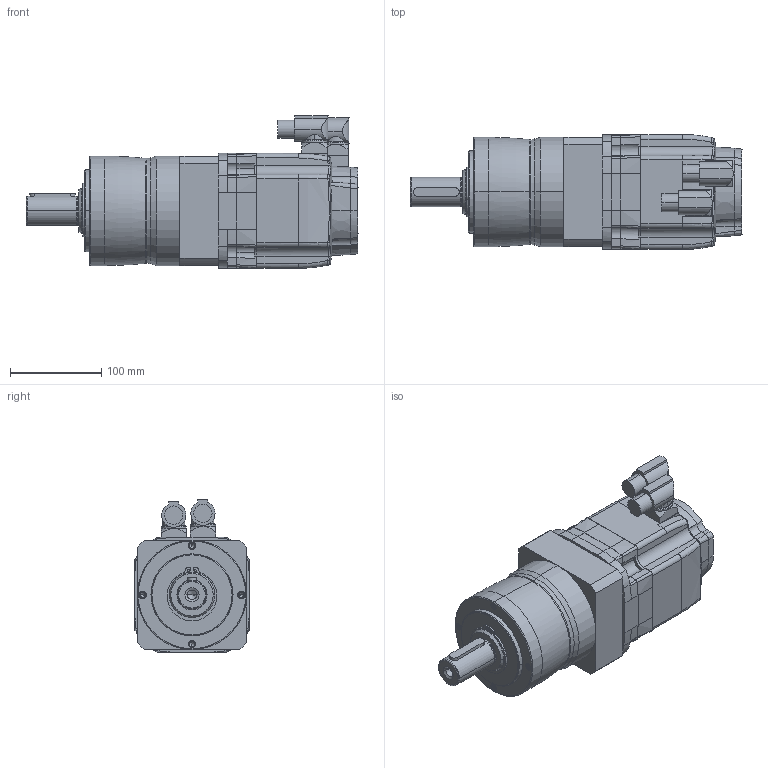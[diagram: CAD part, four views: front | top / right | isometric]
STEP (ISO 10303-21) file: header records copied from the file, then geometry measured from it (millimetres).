
FILE_DESCRIPTION(('STEP AP214'),'1');
FILE_NAME('cctmp_7219E949-155A-4267-9E9F-04808F3F2EE3_2023_12_04_05_06_59_0148..stp','2023-12-04T05:07:00',('SIEMENS A&D'),('CADClick - www.CADClick.com'),'Spatial InterOp 3D',' ','unknown authorization');
FILE_SCHEMA(('AUTOMOTIVE_DESIGN'));
Length unit declared in the file: millimetre
Products named in the file (1): 1FK7060-2AC74-1TG0
Bounding box: 364.2 x 126 x 167.4 mm (x, y, z)
Volume: 3750386.5 mm3; surface area: 198781.6 mm2
Topology: 1 solids, 4 shells, 847 faces, 1998 edges, 1182 vertices
Faces by surface type: cylinder 287, cone 228, plane 214, bspline 59, torus 52, sphere 7
Entity records: 40657 total; most frequent: CARTESIAN_POINT 13945, DIRECTION 4153, ORIENTED_EDGE 3968, EDGE_CURVE 1984, AXIS2_PLACEMENT_3D 1630, VERTEX_POINT 1182, STYLED_ITEM 984, PRESENTATION_STYLE_ASSIGNMENT 984
